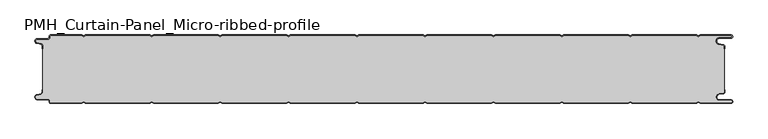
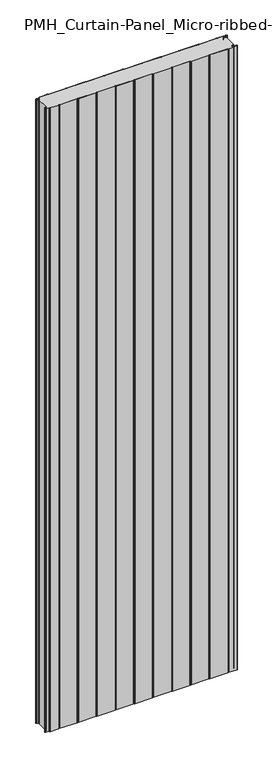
"""IFC4 building model written with IfcOpenShell, lengths in millimetres: plate geometry, PMH_Curtain-Panel_Micro-ribbed-profile : ACH_PMH_Stone-wool-Panel_100M."""

import ifcopenshell
import ifcopenshell.guid

model = None  # the IFC model being written
_history = None  # IfcOwnerHistory: only IFC2X3 demands one
_inside = {}  # id of a spatial element -> (the spatial element, [elements in it])
_under = {}  # id of a project, library or spatial element -> (it, [spatial elements below it])
_declared = {}  # id of a project -> (the project, [libraries it declares])
_typed = {}  # id of a type object -> (the type object, [elements of that type])
_made_of = {}  # id of a material, layer set ... -> (it, [elements and type objects made of it])


def new_model(schema):
    """Start an empty IFC model of exactly this schema.

    Asked for "IFC4X3", IfcOpenShell would pick the latest addendum, in which some entities
    have other attributes; the version numbers below select the first issue.
    IFC2X3 requires an IfcOwnerHistory on every rooted entity: one is made here for all.
    """
    global model, _history
    if schema == "IFC4X3":
        model = ifcopenshell.file(schema_version=(4, 3, 0, 0))
    else:
        model = ifcopenshell.file(schema=schema)
    _inside.clear()
    _under.clear()
    _declared.clear()
    _typed.clear()
    _made_of.clear()
    _history = None
    if model.schema == "IFC2X3":
        org = make("IfcOrganization", Name="unknown")
        user = make(
            "IfcPersonAndOrganization",
            ThePerson=make("IfcPerson", FamilyName="unknown"),
            TheOrganization=org,
        )
        app = make(
            "IfcApplication",
            ApplicationDeveloper=org,
            Version="unknown",
            ApplicationFullName="unknown",
            ApplicationIdentifier="unknown",
        )
        _history = make(
            "IfcOwnerHistory",
            OwningUser=user,
            OwningApplication=app,
            ChangeAction="ADDED",
            CreationDate=0,
        )
    return model


def make(cls, **values):
    """One entity of the class cls with the attributes given. An attribute that is None is left unset."""
    return model.create_entity(
        cls, **{name: value for name, value in values.items() if value is not None}
    )


def rooted(cls, **values):
    """An entity with a GlobalId (a new one), such as an element, a storey or a relation."""
    return make(cls, GlobalId=ifcopenshell.guid.new(), OwnerHistory=_history, **values)


def si_unit(unit_type, name, prefix=None):
    """IfcSIUnit, for example si_unit("LENGTHUNIT", "METRE", prefix="MILLI")."""
    return make("IfcSIUnit", UnitType=unit_type, Prefix=prefix, Name=name)


def assignment(units):
    """IfcUnitAssignment: the units of a project."""
    return None if units is None else make("IfcUnitAssignment", Units=units)


def point(xyz):
    """IfcCartesianPoint."""
    return None if xyz is None else make("IfcCartesianPoint", Coordinates=xyz)


def direction(xyz):
    """IfcDirection."""
    return None if xyz is None else make("IfcDirection", DirectionRatios=xyz)


def frame(location, z_axis=None, x_axis=None):
    """IfcAxis2Placement3D, a coordinate frame: its origin and axes. An axis left out is left unset."""
    return make(
        "IfcAxis2Placement3D",
        Location=point(location),
        Axis=direction(z_axis),
        RefDirection=direction(x_axis),
    )


def frame_2d(location, x_axis=None):
    """IfcAxis2Placement2D, a coordinate frame in the plane: its origin and x axis."""
    return make(
        "IfcAxis2Placement2D", Location=point(location), RefDirection=direction(x_axis)
    )


def origin():
    """The frame at (0, 0, 0) with its axes left unset."""
    return frame((0.0, 0.0, 0.0))


def origin_with_axes():
    """The frame at (0, 0, 0) with the z axis (0, 0, 1) and the x axis (1, 0, 0) written out."""
    return frame((0.0, 0.0, 0.0), z_axis=(0.0, 0.0, 1.0), x_axis=(1.0, 0.0, 0.0))


def place(relative_to, where):
    """IfcLocalPlacement: puts the frame where relative to a parent placement (None: the world)."""
    return make(
        "IfcLocalPlacement", PlacementRelTo=relative_to, RelativePlacement=where
    )


def context(
    kind, dimensions, precision=None, world=None, true_north=None, identifier=None
):
    """IfcGeometricRepresentationContext, for example the 3D "Model" context."""
    return make(
        "IfcGeometricRepresentationContext",
        ContextIdentifier=identifier,
        ContextType=kind,
        CoordinateSpaceDimension=dimensions,
        Precision=precision,
        WorldCoordinateSystem=world,
        TrueNorth=true_north,
    )


def project(units=None, contexts=None):
    """IfcProject with its units and contexts."""
    return rooted(
        "IfcProject",
        Name="project",
        RepresentationContexts=contexts,
        UnitsInContext=assignment(units),
    )


def spatial(cls, under=None, at=None, **own):
    """A site, building, storey or space (cls), placed at a placement, below another one or the project."""
    s = rooted(cls, ObjectPlacement=at, **own)
    if under is not None:
        _under.setdefault(under.id(), (under, []))[1].append(s)
    return s


def polyline(points):
    """IfcPolyline through the points."""
    return make("IfcPolyline", Points=[point(p) for p in points])


def circle_curve(where, radius):
    """IfcCircle in the frame where."""
    return make("IfcCircle", Position=where, Radius=radius)


def trimmed(basis, trim1, trim2, sense, master):
    """IfcTrimmedCurve: the piece of a basis curve between two trims."""
    return make(
        "IfcTrimmedCurve",
        BasisCurve=basis,
        Trim1=trim1,
        Trim2=trim2,
        SenseAgreement=sense,
        MasterRepresentation=master,
    )


def segment(curve, same_sense, transition):
    """IfcCompositeCurveSegment."""
    return make(
        "IfcCompositeCurveSegment",
        Transition=transition,
        SameSense=same_sense,
        ParentCurve=curve,
    )


def composite_curve(segments, self_intersect=None):
    """IfcCompositeCurve: segments joined end to end."""
    return make("IfcCompositeCurve", Segments=segments, SelfIntersect=self_intersect)


def outline(outer, holes=None, kind="AREA"):
    """IfcArbitraryClosedProfileDef: a profile drawn as a closed curve; with holes, ...WithVoids."""
    if holes is None:
        return make("IfcArbitraryClosedProfileDef", ProfileType=kind, OuterCurve=outer)
    return make(
        "IfcArbitraryProfileDefWithVoids",
        ProfileType=kind,
        OuterCurve=outer,
        InnerCurves=holes,
    )


def extrude(swept, where, along, depth):
    """IfcExtrudedAreaSolid: the profile swept, set in the frame where, extruded along a direction by depth."""
    return make(
        "IfcExtrudedAreaSolid",
        SweptArea=swept,
        Position=where,
        ExtrudedDirection=direction(along),
        Depth=depth,
    )


def shape(context_of_items, identifier, shape_type, items):
    """IfcShapeRepresentation: the items that make up one representation, for example the "Body"."""
    return make(
        "IfcShapeRepresentation",
        ContextOfItems=context_of_items,
        RepresentationIdentifier=identifier,
        RepresentationType=shape_type,
        Items=items,
    )


def source(mapping_origin, context_of_items, identifier, shape_type, items):
    """IfcRepresentationMap: a shape defined once, which mapped items show again and again."""
    return make(
        "IfcRepresentationMap",
        MappingOrigin=mapping_origin,
        MappedRepresentation=shape(context_of_items, identifier, shape_type, items),
    )


def transform(
    local_origin,
    x_axis=None,
    y_axis=None,
    z_axis=None,
    scale=None,
    scale2=None,
    scale3=None,
    uniform=True,
):
    """IfcCartesianTransformationOperator3D, or its non-uniform kind. x_axis, y_axis, z_axis: its Axis1, 2, 3."""
    if uniform:
        return make(
            "IfcCartesianTransformationOperator3D",
            Axis1=direction(x_axis),
            Axis2=direction(y_axis),
            LocalOrigin=point(local_origin),
            Scale=scale,
            Axis3=direction(z_axis),
        )
    return make(
        "IfcCartesianTransformationOperator3DnonUniform",
        Axis1=direction(x_axis),
        Axis2=direction(y_axis),
        LocalOrigin=point(local_origin),
        Scale=scale,
        Axis3=direction(z_axis),
        Scale2=scale2,
        Scale3=scale3,
    )


def mapped(mapping_source, mapping_target):
    """IfcMappedItem: shows the shape of a source again, moved by a transform."""
    return make(
        "IfcMappedItem", MappingSource=mapping_source, MappingTarget=mapping_target
    )


def made_of(thing, what):
    """Note that an element or type object is made of a material, layer set ...; save() writes the relation."""
    if what is not None:
        _made_of.setdefault(what.id(), (what, []))[1].append(thing)
    return thing


def element(
    cls,
    number,
    at=None,
    inside=None,
    cuts=None,
    type_object=None,
    material=None,
    context=None,
    identifier="Body",
    shape_type=None,
    held_by="IfcProductDefinitionShape",
    body=None,
    shapes=None,
    **own,
):
    """One element of the class cls, such as IfcWall. Its Tag is "e" and its number.

    at: its placement. inside: the storey or other place that contains it. cuts: it is an
    opening in that element (IfcRelVoidsElement). A single representation is given by context,
    identifier, shape_type and body (its items); several are given by shapes. held_by: the class
    of the entity that holds the representations. save() writes the other relations.
    """
    e = rooted(cls, Tag="e%d" % number, ObjectPlacement=at, **own)
    if body is not None:
        shapes = [shape(context, identifier, shape_type, body)]
    if shapes is not None:
        e.Representation = make(held_by, Representations=shapes)
    if inside is not None:
        _inside.setdefault(inside.id(), (inside, []))[1].append(e)
    if cuts is not None:
        rooted(
            "IfcRelVoidsElement", RelatingBuildingElement=cuts, RelatedOpeningElement=e
        )
    if type_object is not None:
        _typed.setdefault(type_object.id(), (type_object, []))[1].append(e)
    return made_of(e, material)


def aggregate(whole, parts):
    """IfcRelAggregates: a whole, such as a stair, and the parts it consists of."""
    return rooted("IfcRelAggregates", RelatingObject=whole, RelatedObjects=parts)


def save(model, path):
    """Write the relations noted so far, then the file.

    IfcRelAggregates (storeys below a building ...), IfcRelContainedInSpatialStructure (elements
    in a storey), IfcRelDefinesByType, IfcRelAssociatesMaterial and IfcRelDeclares: one each for
    every whole, place, type object, material and project.
    """
    for whole, parts in _under.values():
        aggregate(whole, parts)
    for where, things in _inside.values():
        rooted(
            "IfcRelContainedInSpatialStructure",
            RelatedElements=things,
            RelatingStructure=where,
        )
    for kind, things in _typed.values():
        rooted("IfcRelDefinesByType", RelatedObjects=things, RelatingType=kind)
    for what, things in _made_of.values():
        rooted("IfcRelAssociatesMaterial", RelatedObjects=things, RelatingMaterial=what)
    for by, libraries in _declared.values():
        rooted("IfcRelDeclares", RelatingContext=by, RelatedDefinitions=libraries)
    model.write(path)


def pmh_curtain_panel_micro_ribbed_profile_5782b2c2(model_context):
    return source(origin(), model_context, "Body", "SweptSolid", [
        extrude(outline(composite_curve([segment(trimmed(circle_curve(frame_2d((-502.0, -15.878557)), 2.0), [point((-500.0, -15.878557))], [point((-501.5500978, -13.9298169))], True, "CARTESIAN"), True, "CONTINUOUS"), segment(polyline([(-501.5500978, -13.9298169), (-507.7098239, -12.507732)]), True, "CONTINUOUS"), segment(trimmed(circle_curve(frame_2d((-506.9, -9.0)), 3.6), [point((-507.7098239, -12.507732))], [point((-506.9, -5.4))], False, "CARTESIAN"), True, "CONTINUOUS"), segment(polyline([(-506.9, -5.4), (-491.4, -5.4)]), True, "CONTINUOUS"), segment(trimmed(circle_curve(frame_2d((-491.4, -3.4)), 2.0), [point((-491.4, -5.4))], [point((-489.4, -3.4))], True, "CARTESIAN"), True, "CONTINUOUS"), segment(polyline([(-489.4, -3.4), (-489.4, -2.0)]), True, "CONTINUOUS"), segment(trimmed(circle_curve(frame_2d((-487.4, -2.0)), 2.0), [point((-489.4, -2.0))], [point((-487.4, 0.0))], False, "CARTESIAN"), True, "CONTINUOUS"), segment(polyline([(-487.4, 0.0), (-442.0999995, 0.0), (-439.4, -1.5588455), (-436.7000005, 0.0), (-342.0999995, 0.0), (-339.4, -1.5588455), (-336.7000005, 0.0), (-242.0999995, 0.0), (-239.4, -1.5588455), (-236.7000005, 0.0), (-142.0999995, 0.0), (-139.4, -1.5588455), (-136.7000005, 0.0), (-42.0999995, 0.0), (-39.4, -1.5588455), (-36.7000005, 0.0), (57.9000005, 0.0), (60.6, -1.5588455), (63.2999995, 0.0), (157.9000005, 0.0), (160.6, -1.5588455), (163.2999995, 0.0), (257.9000005, 0.0), (260.6, -1.5588455), (263.2999995, 0.0), (357.9000005, 0.0), (360.6, -1.5588455), (363.2999995, 0.0), (457.9000005, 0.0), (460.6, -1.5588455), (463.2999995, 0.0), (508.1, 0.0)]), True, "CONTINUOUS"), segment(trimmed(circle_curve(frame_2d((508.1, -2.5)), 2.5), [point((508.1, 0.0))], [point((508.1, -5.0))], False, "CARTESIAN"), True, "CONTINUOUS"), segment(polyline([(508.1, -5.0), (491.1, -5.0)]), True, "CONTINUOUS"), segment(trimmed(circle_curve(frame_2d((491.1, -9.0)), 4.0), [point((491.1, -5.0))], [point((490.405407, -12.939231))], True, "CARTESIAN"), True, "CONTINUOUS"), segment(polyline([(490.405407, -12.939231), (496.8514855, -14.0758491)]), True, "CONTINUOUS"), segment(trimmed(circle_curve(frame_2d((496.4, -16.6363492)), 2.6), [point((496.8514855, -14.0758491))], [point((499.0, -16.6363492))], False, "CARTESIAN"), True, "CONTINUOUS"), segment(polyline([(499.0, -16.6363492), (499.0, -20.0), (498.2, -20.0), (498.2, -16.6363492)]), True, "CONTINUOUS"), segment(trimmed(circle_curve(frame_2d((496.4, -16.6363492)), 1.8), [point((498.2, -16.6363492))], [point((496.7125669, -14.8636953))], True, "CARTESIAN"), True, "CONTINUOUS"), segment(polyline([(496.7125669, -14.8636953), (490.2664884, -13.7270772)]), True, "CONTINUOUS"), segment(trimmed(circle_curve(frame_2d((491.1, -9.0)), 4.8), [point((490.2664884, -13.7270772))], [point((491.1, -4.2))], False, "CARTESIAN"), True, "CONTINUOUS"), segment(polyline([(491.1, -4.2), (508.1, -4.2)]), True, "CONTINUOUS"), segment(trimmed(circle_curve(frame_2d((508.1, -2.5)), 1.7), [point((508.1, -4.2))], [point((508.1, -0.8))], True, "CARTESIAN"), True, "CONTINUOUS"), segment(polyline([(508.1, -0.8), (463.5143588, -0.8), (460.6, -2.482606), (457.6856412, -0.8), (363.5143588, -0.8), (360.6, -2.482606), (357.6856412, -0.8), (263.5143588, -0.8), (260.6, -2.482606), (257.6856412, -0.8), (163.5143588, -0.8), (160.6, -2.482606), (157.6856412, -0.8), (63.5143588, -0.8), (60.6, -2.482606), (57.6856412, -0.8), (-36.4856412, -0.8), (-39.4, -2.482606), (-42.3143588, -0.8), (-136.4856412, -0.8), (-139.4, -2.482606), (-142.3143588, -0.8), (-236.4856412, -0.8), (-239.4, -2.482606), (-242.3143588, -0.8), (-336.4856412, -0.8), (-339.4, -2.482606), (-342.3143588, -0.8), (-436.4856412, -0.8), (-439.4, -2.482606), (-442.3143588, -0.8), (-487.4, -0.8)]), True, "CONTINUOUS"), segment(trimmed(circle_curve(frame_2d((-487.4, -2.0)), 1.2), [point((-487.4, -0.8))], [point((-488.6, -2.0))], True, "CARTESIAN"), True, "CONTINUOUS"), segment(polyline([(-488.6, -2.0), (-488.6, -3.4)]), True, "CONTINUOUS"), segment(trimmed(circle_curve(frame_2d((-491.4, -3.4)), 2.8), [point((-488.6, -3.4))], [point((-491.4, -6.2))], False, "CARTESIAN"), True, "CONTINUOUS"), segment(polyline([(-491.4, -6.2), (-506.9, -6.2)]), True, "CONTINUOUS"), segment(trimmed(circle_curve(frame_2d((-506.9, -9.0)), 2.8), [point((-506.9, -6.2))], [point((-507.529863, -11.7282362))], True, "CARTESIAN"), True, "CONTINUOUS"), segment(polyline([(-507.529863, -11.7282362), (-501.370137, -13.150321)]), True, "CONTINUOUS"), segment(trimmed(circle_curve(frame_2d((-502.0, -15.878557)), 2.8), [point((-501.370137, -13.150321))], [point((-499.2, -15.878557))], False, "CARTESIAN"), True, "CONTINUOUS"), segment(polyline([(-499.2, -15.878557), (-499.2, -20.0), (-500.0, -20.0), (-500.0, -15.878557)]), True, "CONTINUOUS")], self_intersect=False)), origin_with_axes(), (0.0, 0.0, 1.0), 3500.0),
        extrude(outline(composite_curve([segment(polyline([(-499.2, -84.1214426), (-499.2, -15.8785573)]), True, "CONTINUOUS"), segment(trimmed(circle_curve(frame_2d((-502.0, -15.8785573)), 2.8), [point((-499.2, -15.8785573))], [point((-501.370137, -13.1503212))], True, "CARTESIAN"), True, "CONTINUOUS"), segment(polyline([(-501.370137, -13.1503212), (-507.5298631, -11.7282362)]), True, "CONTINUOUS"), segment(trimmed(circle_curve(frame_2d((-506.9, -9.0)), 2.8), [point((-507.5298631, -11.7282362))], [point((-506.9, -6.2))], False, "CARTESIAN"), True, "CONTINUOUS"), segment(polyline([(-506.9, -6.2), (-491.4000001, -6.2)]), True, "CONTINUOUS"), segment(trimmed(circle_curve(frame_2d((-491.4000001, -3.4)), 2.8), [point((-491.4000001, -6.2))], [point((-488.6000001, -3.4))], True, "CARTESIAN"), True, "CONTINUOUS"), segment(polyline([(-488.6000001, -3.4), (-488.6000001, -2.0)]), True, "CONTINUOUS"), segment(trimmed(circle_curve(frame_2d((-487.4000001, -2.0)), 1.2), [point((-488.6000001, -2.0))], [point((-487.4000001, -0.8))], False, "CARTESIAN"), True, "CONTINUOUS"), segment(polyline([(-487.4000001, -0.8), (-442.3143589, -0.8), (-439.4000001, -2.482606), (-436.4856412, -0.8), (-342.3143589, -0.8), (-339.4000001, -2.482606), (-336.4856412, -0.8), (-242.3143589, -0.8), (-239.4000001, -2.482606), (-236.4856412, -0.8), (-142.3143589, -0.8), (-139.4000001, -2.482606), (-136.4856412, -0.8), (-42.3143589, -0.8), (-39.4000001, -2.482606), (-36.4856412, -0.8), (57.6856411, -0.8), (60.5999999, -2.482606), (63.5143588, -0.8), (157.6856411, -0.8), (160.5999999, -2.482606), (163.5143588, -0.8), (257.6856411, -0.8), (260.5999999, -2.482606), (263.5143588, -0.8), (357.6856411, -0.8), (360.5999999, -2.482606), (363.5143588, -0.8), (457.6856411, -0.8), (460.5999999, -2.482606), (463.5143588, -0.8), (508.0999999, -0.8)]), True, "CONTINUOUS"), segment(trimmed(circle_curve(frame_2d((508.0999999, -2.5)), 1.7), [point((508.0999999, -0.8))], [point((508.0999999, -4.2))], False, "CARTESIAN"), True, "CONTINUOUS"), segment(polyline([(508.0999999, -4.2), (491.0999999, -4.2)]), True, "CONTINUOUS"), segment(trimmed(circle_curve(frame_2d((491.0999999, -9.0)), 4.8), [point((491.0999999, -4.2))], [point((490.2664883, -13.7270771))], True, "CARTESIAN"), True, "CONTINUOUS"), segment(polyline([(490.2664883, -13.7270771), (496.7125668, -14.8636953)]), True, "CONTINUOUS"), segment(trimmed(circle_curve(frame_2d((496.3999999, -16.6363492)), 1.8), [point((496.7125668, -14.8636953))], [point((498.1999999, -16.6363492))], False, "CARTESIAN"), True, "CONTINUOUS"), segment(polyline([(498.1999999, -16.6363492), (498.1999999, -83.3636508)]), True, "CONTINUOUS"), segment(trimmed(circle_curve(frame_2d((496.3999999, -83.3636508)), 1.8), [point((498.1999999, -83.3636508))], [point((496.7125668, -85.1363047))], False, "CARTESIAN"), True, "CONTINUOUS"), segment(polyline([(496.7125668, -85.1363047), (490.2664883, -86.2729229)]), True, "CONTINUOUS"), segment(trimmed(circle_curve(frame_2d((491.0999999, -91.0)), 4.8), [point((490.2664883, -86.2729229))], [point((491.0999999, -95.8))], True, "CARTESIAN"), True, "CONTINUOUS"), segment(polyline([(491.0999999, -95.8), (508.0999999, -95.8)]), True, "CONTINUOUS"), segment(trimmed(circle_curve(frame_2d((508.0999999, -97.5)), 1.7), [point((508.0999999, -95.8))], [point((508.0999999, -99.2))], False, "CARTESIAN"), True, "CONTINUOUS"), segment(polyline([(508.0999999, -99.2), (463.5143588, -99.2), (460.5999999, -97.517394), (457.6856411, -99.2), (363.5143588, -99.2), (360.5999999, -97.517394), (357.6856411, -99.2), (263.5143588, -99.2), (260.5999999, -97.517394), (257.6856411, -99.2), (163.5143588, -99.2), (160.5999999, -97.517394), (157.6856411, -99.2), (63.5143588, -99.2), (60.5999999, -97.517394), (57.6856411, -99.2), (-36.4856412, -99.2), (-39.4000001, -97.517394), (-42.3143589, -99.2), (-136.4856412, -99.2), (-139.4000001, -97.517394), (-142.3143589, -99.2), (-236.4856412, -99.2), (-239.4000001, -97.517394), (-242.3143589, -99.2), (-336.4856412, -99.2), (-339.4000001, -97.517394), (-342.3143589, -99.2), (-436.4856412, -99.2), (-439.4000001, -97.517394), (-442.3143589, -99.2), (-487.4000001, -99.2)]), True, "CONTINUOUS"), segment(trimmed(circle_curve(frame_2d((-487.4000001, -98.0)), 1.2), [point((-487.4000001, -99.2))], [point((-488.6000001, -98.0))], False, "CARTESIAN"), True, "CONTINUOUS"), segment(polyline([(-488.6000001, -98.0), (-488.6000001, -96.6)]), True, "CONTINUOUS"), segment(trimmed(circle_curve(frame_2d((-491.4000001, -96.6)), 2.8), [point((-488.6000001, -96.6))], [point((-491.4000001, -93.8))], True, "CARTESIAN"), True, "CONTINUOUS"), segment(polyline([(-491.4000001, -93.8), (-506.9, -93.8)]), True, "CONTINUOUS"), segment(trimmed(circle_curve(frame_2d((-506.9, -91.0)), 2.8), [point((-506.9, -93.8))], [point((-507.5298631, -88.2717638))], False, "CARTESIAN"), True, "CONTINUOUS"), segment(polyline([(-507.5298631, -88.2717638), (-501.370137, -86.8496788)]), True, "CONTINUOUS"), segment(trimmed(circle_curve(frame_2d((-502.0, -84.1214426)), 2.8), [point((-501.370137, -86.8496788))], [point((-499.2, -84.1214426))], True, "CARTESIAN"), True, "CONTINUOUS")], self_intersect=False)), origin_with_axes(), (0.0, 0.0, 1.0), 3500.0),
        extrude(outline(composite_curve([segment(polyline([(-500.0, -84.121443), (-500.0, -80.0), (-499.2, -80.0), (-499.2, -84.121443)]), True, "CONTINUOUS"), segment(trimmed(circle_curve(frame_2d((-502.0, -84.121443)), 2.8), [point((-499.2, -84.121443))], [point((-501.370137, -86.8496792))], False, "CARTESIAN"), True, "CONTINUOUS"), segment(polyline([(-501.370137, -86.8496792), (-507.529863, -88.271764)]), True, "CONTINUOUS"), segment(trimmed(circle_curve(frame_2d((-506.9, -91.0)), 2.8), [point((-507.529863, -88.271764))], [point((-506.9, -93.8))], True, "CARTESIAN"), True, "CONTINUOUS"), segment(polyline([(-506.9, -93.8), (-491.4, -93.8)]), True, "CONTINUOUS"), segment(trimmed(circle_curve(frame_2d((-491.4, -96.6)), 2.8), [point((-491.4, -93.8))], [point((-488.6, -96.6))], False, "CARTESIAN"), True, "CONTINUOUS"), segment(polyline([(-488.6, -96.6), (-488.6, -98.0)]), True, "CONTINUOUS"), segment(trimmed(circle_curve(frame_2d((-487.4, -98.0)), 1.2), [point((-488.6, -98.0))], [point((-487.4, -99.2))], True, "CARTESIAN"), True, "CONTINUOUS"), segment(polyline([(-487.4, -99.2), (-442.3143588, -99.2), (-439.4, -97.517394), (-436.4856412, -99.2), (-342.3143588, -99.2), (-339.4, -97.517394), (-336.4856412, -99.2), (-242.3143588, -99.2), (-239.4, -97.517394), (-236.4856412, -99.2), (-142.3143588, -99.2), (-139.4, -97.517394), (-136.4856412, -99.2), (-42.3143588, -99.2), (-39.4, -97.517394), (-36.4856412, -99.2), (57.6856412, -99.2), (60.6, -97.517394), (63.5143588, -99.2), (157.6856412, -99.2), (160.6, -97.517394), (163.5143588, -99.2), (257.6856412, -99.2), (260.6, -97.517394), (263.5143588, -99.2), (357.6856412, -99.2), (360.6, -97.517394), (363.5143588, -99.2), (457.6856412, -99.2), (460.6, -97.517394), (463.5143588, -99.2), (508.1, -99.2)]), True, "CONTINUOUS"), segment(trimmed(circle_curve(frame_2d((508.1, -97.5)), 1.7), [point((508.1, -99.2))], [point((508.1, -95.8))], True, "CARTESIAN"), True, "CONTINUOUS"), segment(polyline([(508.1, -95.8), (491.1, -95.8)]), True, "CONTINUOUS"), segment(trimmed(circle_curve(frame_2d((491.1, -91.0)), 4.8), [point((491.1, -95.8))], [point((490.2664884, -86.2729229))], False, "CARTESIAN"), True, "CONTINUOUS"), segment(polyline([(490.2664884, -86.2729229), (496.7125669, -85.1363047)]), True, "CONTINUOUS"), segment(trimmed(circle_curve(frame_2d((496.4, -83.3636508)), 1.8), [point((496.7125669, -85.1363047))], [point((498.2, -83.3636508))], True, "CARTESIAN"), True, "CONTINUOUS"), segment(polyline([(498.2, -83.3636508), (498.2, -80.0), (499.0, -80.0), (499.0, -83.3636508)]), True, "CONTINUOUS"), segment(trimmed(circle_curve(frame_2d((496.4, -83.3636508)), 2.6), [point((499.0, -83.3636508))], [point((496.8514855, -85.9241509))], False, "CARTESIAN"), True, "CONTINUOUS"), segment(polyline([(496.8514855, -85.9241509), (490.405407, -87.060769)]), True, "CONTINUOUS"), segment(trimmed(circle_curve(frame_2d((491.1, -91.0)), 4.0), [point((490.405407, -87.060769))], [point((491.1, -95.0))], True, "CARTESIAN"), True, "CONTINUOUS"), segment(polyline([(491.1, -95.0), (508.1, -95.0)]), True, "CONTINUOUS"), segment(trimmed(circle_curve(frame_2d((508.1, -97.5)), 2.5), [point((508.1, -95.0))], [point((508.1, -100.0))], False, "CARTESIAN"), True, "CONTINUOUS"), segment(polyline([(508.1, -100.0), (463.2999995, -100.0), (460.6, -98.4411545), (457.9000005, -100.0), (363.2999995, -100.0), (360.6, -98.4411545), (357.9000005, -100.0), (263.2999995, -100.0), (260.6, -98.4411545), (257.9000005, -100.0), (163.2999995, -100.0), (160.6, -98.4411545), (157.9000005, -100.0), (63.2999995, -100.0), (60.6, -98.4411545), (57.9000005, -100.0), (-36.7000005, -100.0), (-39.4, -98.4411545), (-42.0999995, -100.0), (-136.7000005, -100.0), (-139.4, -98.4411545), (-142.0999995, -100.0), (-236.7000005, -100.0), (-239.4, -98.4411545), (-242.0999995, -100.0), (-336.7000005, -100.0), (-339.4, -98.4411545), (-342.0999995, -100.0), (-436.7000005, -100.0), (-439.4, -98.4411545), (-442.0999995, -100.0), (-487.4, -100.0)]), True, "CONTINUOUS"), segment(trimmed(circle_curve(frame_2d((-487.4, -98.0)), 2.0), [point((-487.4, -100.0))], [point((-489.4, -98.0))], False, "CARTESIAN"), True, "CONTINUOUS"), segment(polyline([(-489.4, -98.0), (-489.4, -96.6)]), True, "CONTINUOUS"), segment(trimmed(circle_curve(frame_2d((-491.4, -96.6)), 2.0), [point((-489.4, -96.6))], [point((-491.4, -94.6))], True, "CARTESIAN"), True, "CONTINUOUS"), segment(polyline([(-491.4, -94.6), (-506.9, -94.6)]), True, "CONTINUOUS"), segment(trimmed(circle_curve(frame_2d((-506.9, -91.0)), 3.6), [point((-506.9, -94.6))], [point((-507.7098239, -87.4922678))], False, "CARTESIAN"), True, "CONTINUOUS"), segment(polyline([(-507.7098239, -87.4922678), (-501.5500979, -86.070183)]), True, "CONTINUOUS"), segment(trimmed(circle_curve(frame_2d((-502.0, -84.121443)), 2.0), [point((-501.5500979, -86.070183))], [point((-500.0, -84.121443))], True, "CARTESIAN"), True, "CONTINUOUS")], self_intersect=False)), origin_with_axes(), (0.0, 0.0, 1.0), 3500.0),
    ])


if __name__ == "__main__":
    model = new_model("IFC4")
    model_context = context("Model", 3, world=origin())
    ifc_project = project(units=[si_unit("LENGTHUNIT", "METRE", prefix="MILLI")], contexts=[model_context])
    site = spatial("IfcSite", under=ifc_project)
    building = spatial("IfcBuilding", under=site)
    placement = place(None, origin())
    pmh_curtain_panel_micro_ribbed_profile_shape = pmh_curtain_panel_micro_ribbed_profile_5782b2c2(model_context)
    element("IfcPlate", 1, ObjectType="PMH_Curtain-Panel_Micro-ribbed-profile : ACH_PMH_Stone-wool-Panel_100M", at=placement, inside=building, context=model_context, shape_type="MappedRepresentation", body=[
        mapped(pmh_curtain_panel_micro_ribbed_profile_shape, transform((0.0, 0.0, 0.0), x_axis=(1.0, 0.0, 0.0), y_axis=(0.0, 1.0, 0.0), z_axis=(0.0, 0.0, 1.0))),
    ])
    save(model, "model.ifc")
